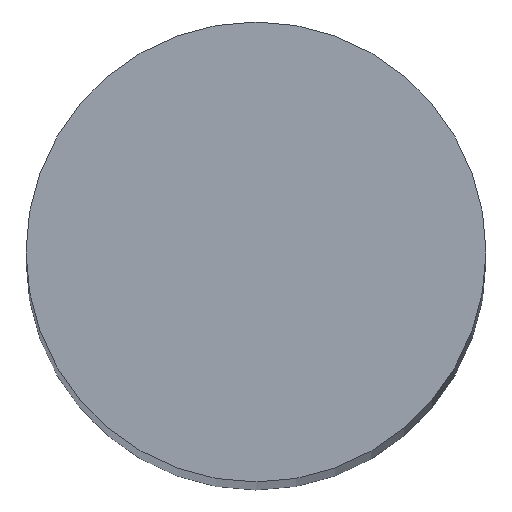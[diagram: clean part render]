
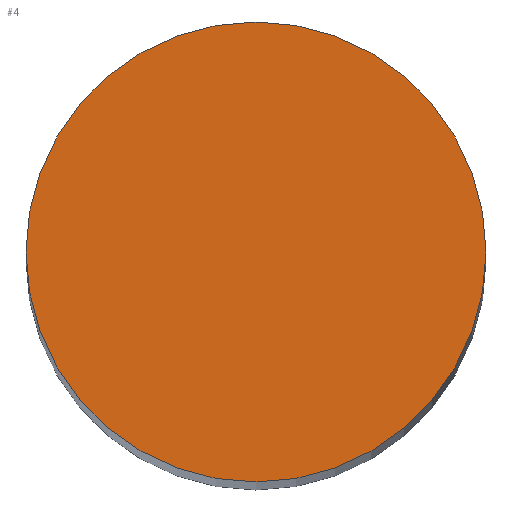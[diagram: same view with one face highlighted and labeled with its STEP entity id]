
A CAD part, top view. The second image highlights one B-rep face of the part: STEP entity #4.
In plain terms, the highlighted planar face has unit normal (0, 0, 1).
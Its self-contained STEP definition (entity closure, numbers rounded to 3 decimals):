
#3 = EDGE_CURVE ( 'NONE', #44, #45, #18, .T. ) ;
#4 = ADVANCED_FACE ( 'NONE', ( #19 ), #6, .T. ) ;
#5 = AXIS2_PLACEMENT_3D ( 'NONE', #29, #28, #27 ) ;
#6 = PLANE ( 'NONE',  #5 ) ;
#7 = DIRECTION ( 'NONE',  ( 1., 0., 0. ) ) ;
#8 = DIRECTION ( 'NONE',  ( 0., 0., 1. ) ) ;
#9 = EDGE_LOOP ( 'NONE', ( #10, #11 ) ) ;
#10 = ORIENTED_EDGE ( 'NONE', *, *, #172, .T. ) ;
#11 = ORIENTED_EDGE ( 'NONE', *, *, #3, .T. ) ;
#16 = CARTESIAN_POINT ( 'NONE',  ( 0., 0., 600. ) ) ;
#17 = AXIS2_PLACEMENT_3D ( 'NONE', #16, #8, #7 ) ;
#18 = CIRCLE ( 'NONE', #17, 30. ) ;
#19 = FACE_OUTER_BOUND ( 'NONE', #9, .T. ) ;
#27 = DIRECTION ( 'NONE',  ( 1., 0., 0. ) ) ;
#28 = DIRECTION ( 'NONE',  ( 0., 0., 1. ) ) ;
#29 = CARTESIAN_POINT ( 'NONE',  ( 0., 0., 600. ) ) ;
#39 = CARTESIAN_POINT ( 'NONE',  ( -30., 0., 600. ) ) ;
#43 = CARTESIAN_POINT ( 'NONE',  ( 30., 0., 600. ) ) ;
#44 = VERTEX_POINT ( 'NONE', #43 ) ;
#45 = VERTEX_POINT ( 'NONE', #39 ) ;
#57 = DIRECTION ( 'NONE',  ( 1., 0., 0. ) ) ;
#67 = CARTESIAN_POINT ( 'NONE',  ( 0., 0., 600. ) ) ;
#68 = DIRECTION ( 'NONE',  ( 0., 0., 1. ) ) ;
#69 = CIRCLE ( 'NONE', #71, 30. ) ;
#71 = AXIS2_PLACEMENT_3D ( 'NONE', #67, #68, #57 ) ;
#172 = EDGE_CURVE ( 'NONE', #45, #44, #69, .T. ) ;
